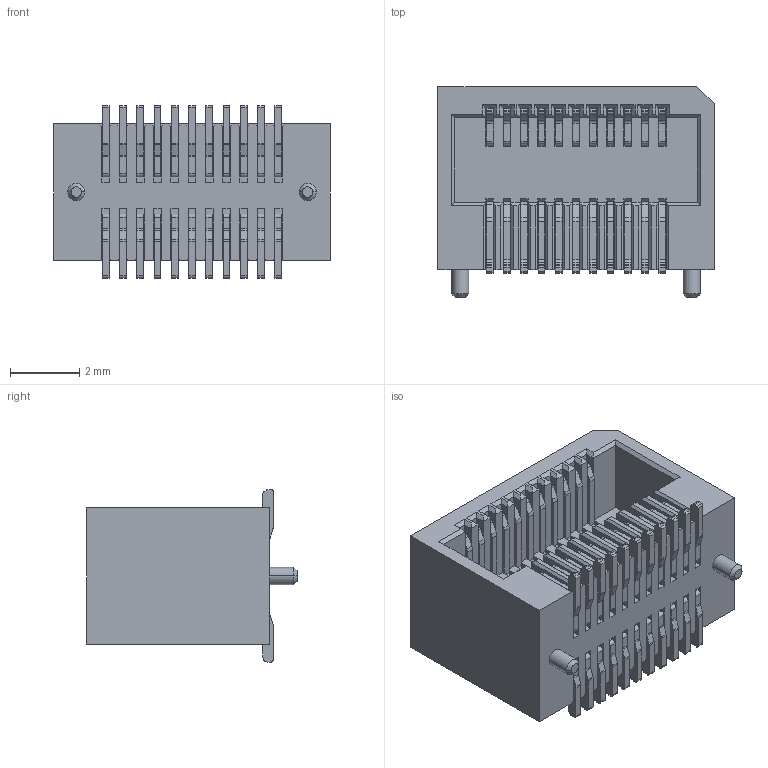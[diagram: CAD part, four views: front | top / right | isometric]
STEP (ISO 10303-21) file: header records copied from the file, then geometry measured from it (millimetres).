
FILE_DESCRIPTION (( 'STEP AP203' ), '1' );
FILE_NAME ('HC-PBB05-1-22-F-S-H5.4-XX-R-P-06 (BTB0.5 单槽 母座 立式侧插 座高5.4mm 编带 带柱)-HCTL.STEP', '2025-10-28T02:46:42', ( '' ), ( '' ), 'SwSTEP 2.0', 'SolidWorks 2025', '' );
FILE_SCHEMA (( 'CONFIG_CONTROL_DESIGN' ));
Length unit declared in the file: millimetre
Products named in the file (1): HC-PBB05-1-22-F-S-H5.4-XX-R-P-06 (BTB0.5 单槽 母座 立式侧插 座高5.4mm 编带 带柱)-HCTL
Bounding box: 8 x 6.1 x 5 mm (x, y, z)
Volume: 121.6 mm3; surface area: 625.4 mm2
Topology: 1 solids, 1 shells, 1323 faces, 4119 edges, 2679 vertices
Faces by surface type: plane 908, cylinder 411, cone 4
Entity records: 45920 total; most frequent: CARTESIAN_POINT 8330, ORIENTED_EDGE 8238, DIRECTION 7571, EDGE_CURVE 4119, LINE 3271, VECTOR 3271, VERTEX_POINT 2679, AXIS2_PLACEMENT_3D 2150
